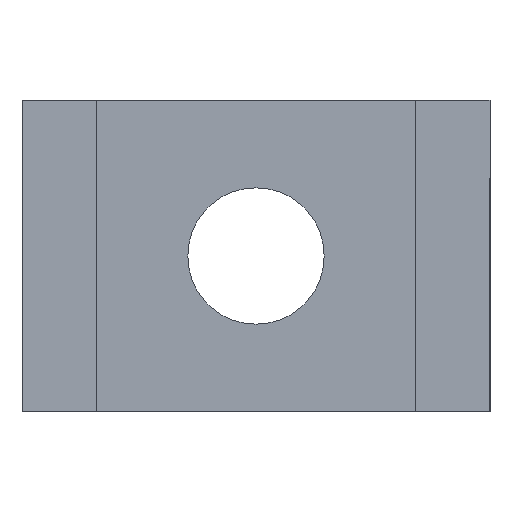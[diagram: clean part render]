
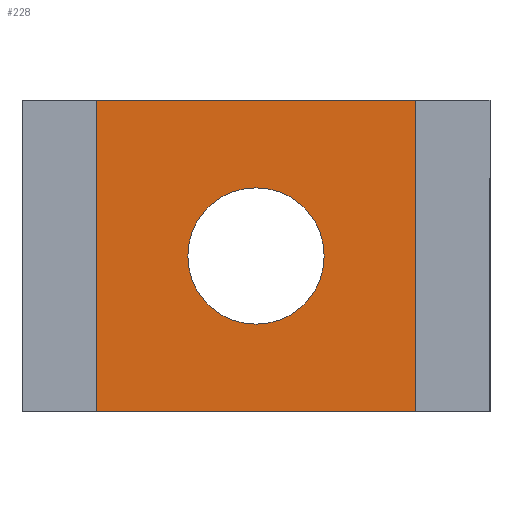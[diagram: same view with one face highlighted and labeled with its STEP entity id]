
A CAD part, front view. The second image highlights one B-rep face of the part: STEP entity #228.
In plain terms, the highlighted planar face has unit normal (0, -1, 0).
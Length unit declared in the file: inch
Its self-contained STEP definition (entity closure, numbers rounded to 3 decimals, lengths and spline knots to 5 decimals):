
#1 = FACE_BOUND ( 'NONE', #146, .T. ) ;
#3 = VERTEX_POINT ( 'NONE', #121 ) ;
#41 = CARTESIAN_POINT ( 'NONE',  ( 0., -0.46, 0.27345 ) ) ;
#56 = ORIENTED_EDGE ( 'NONE', *, *, #80, .T. ) ;
#66 = ORIENTED_EDGE ( 'NONE', *, *, #178, .F. ) ;
#78 = CARTESIAN_POINT ( 'NONE',  ( -0.64187, -0.46, 0.625 ) ) ;
#80 = EDGE_CURVE ( 'NONE', #553, #479, #185, .T. ) ;
#109 = ORIENTED_EDGE ( 'NONE', *, *, #458, .F. ) ;
#113 = VECTOR ( 'NONE', #222, 39.37008 ) ;
#120 = CARTESIAN_POINT ( 'NONE',  ( 0.64188, -0.46, -0.625 ) ) ;
#121 = CARTESIAN_POINT ( 'NONE',  ( -0.64187, -0.46, -0.625 ) ) ;
#129 = CARTESIAN_POINT ( 'NONE',  ( 0.64187, -0.46, 0.625 ) ) ;
#138 = PLANE ( 'NONE',  #463 ) ;
#146 = EDGE_LOOP ( 'NONE', ( #208, #520 ) ) ;
#158 = EDGE_CURVE ( 'NONE', #387, #553, #187, .T. ) ;
#176 = CARTESIAN_POINT ( 'NONE',  ( -0.64187, -0.46, 0.625 ) ) ;
#178 = EDGE_CURVE ( 'NONE', #3, #479, #239, .T. ) ;
#185 = LINE ( 'NONE', #78, #113 ) ;
#187 = LINE ( 'NONE', #572, #321 ) ;
#207 = CARTESIAN_POINT ( 'NONE',  ( 0., -0.46, -0.27345 ) ) ;
#208 = ORIENTED_EDGE ( 'NONE', *, *, #270, .T. ) ;
#222 = DIRECTION ( 'NONE',  ( -1., 0., 0. ) ) ;
#228 = ADVANCED_FACE ( 'NONE', ( #1, #575 ), #138, .F. ) ;
#237 = DIRECTION ( 'NONE',  ( 0., 0., 1. ) ) ;
#239 = LINE ( 'NONE', #533, #402 ) ;
#242 = AXIS2_PLACEMENT_3D ( 'NONE', #396, #299, #303 ) ;
#264 = EDGE_CURVE ( 'NONE', #376, #482, #421, .T. ) ;
#270 = EDGE_CURVE ( 'NONE', #482, #376, #518, .T. ) ;
#296 = DIRECTION ( 'NONE',  ( 0., 0., 1. ) ) ;
#299 = DIRECTION ( 'NONE',  ( 0., 1., 0. ) ) ;
#303 = DIRECTION ( 'NONE',  ( 0., 0., 1. ) ) ;
#321 = VECTOR ( 'NONE', #296, 39.37008 ) ;
#366 = CARTESIAN_POINT ( 'NONE',  ( -0.64187, -0.46, -0.625 ) ) ;
#376 = VERTEX_POINT ( 'NONE', #207 ) ;
#383 = CARTESIAN_POINT ( 'NONE',  ( -0.64187, -0.46, -0.625 ) ) ;
#387 = VERTEX_POINT ( 'NONE', #120 ) ;
#396 = CARTESIAN_POINT ( 'NONE',  ( 0., -0.46, 0. ) ) ;
#402 = VECTOR ( 'NONE', #237, 39.37008 ) ;
#421 = CIRCLE ( 'NONE', #483, 0.27345 ) ;
#439 = ORIENTED_EDGE ( 'NONE', *, *, #158, .T. ) ;
#446 = VECTOR ( 'NONE', #562, 39.37008 ) ;
#452 = EDGE_LOOP ( 'NONE', ( #56, #66, #109, #439 ) ) ;
#458 = EDGE_CURVE ( 'NONE', #387, #3, #531, .T. ) ;
#463 = AXIS2_PLACEMENT_3D ( 'NONE', #383, #580, #481 ) ;
#479 = VERTEX_POINT ( 'NONE', #176 ) ;
#481 = DIRECTION ( 'NONE',  ( 0., 0., 1. ) ) ;
#482 = VERTEX_POINT ( 'NONE', #41 ) ;
#483 = AXIS2_PLACEMENT_3D ( 'NONE', #499, #545, #590 ) ;
#499 = CARTESIAN_POINT ( 'NONE',  ( 0., -0.46, 0. ) ) ;
#518 = CIRCLE ( 'NONE', #242, 0.27345 ) ;
#520 = ORIENTED_EDGE ( 'NONE', *, *, #264, .T. ) ;
#531 = LINE ( 'NONE', #366, #446 ) ;
#533 = CARTESIAN_POINT ( 'NONE',  ( -0.64187, -0.46, -0.625 ) ) ;
#545 = DIRECTION ( 'NONE',  ( 0., 1., 0. ) ) ;
#553 = VERTEX_POINT ( 'NONE', #129 ) ;
#562 = DIRECTION ( 'NONE',  ( -1., 0., 0. ) ) ;
#572 = CARTESIAN_POINT ( 'NONE',  ( 0.64187, -0.46, -0.625 ) ) ;
#575 = FACE_OUTER_BOUND ( 'NONE', #452, .T. ) ;
#580 = DIRECTION ( 'NONE',  ( 0., 1., 0. ) ) ;
#590 = DIRECTION ( 'NONE',  ( 0., 0., 1. ) ) ;
